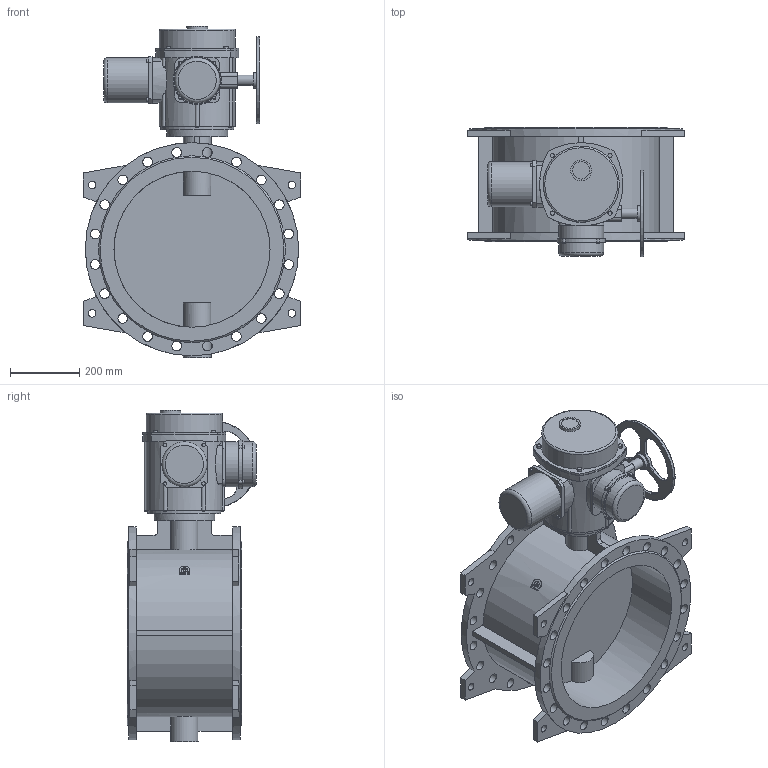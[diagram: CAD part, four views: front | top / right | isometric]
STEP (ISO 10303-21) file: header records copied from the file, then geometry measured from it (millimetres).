
FILE_DESCRIPTION(('STEP AP203'), '1');
FILE_NAME('青蜮铕 023F.Z DN450 PN16_菹_QT.Z300', '', ('UNSPECIFIED'), ('UNSPECIFIED'), 'ASCON STEP Converter 1.6', 'ASCON Math Kernel', '');
FILE_SCHEMA(('CONFIG_CONTROL_DESIGN'));
Length unit declared in the file: millimetre
Bounding box: 626 x 374 x 956 mm (x, y, z)
Volume: 38094246.6 mm3; surface area: 2634695.1 mm2
Topology: 1 solids, 1 shells, 401 faces, 1127 edges, 722 vertices
Faces by surface type: cylinder 194, plane 146, torus 43, cone 18
Full cylindrical faces by diameter (mm): 8 x10, 10 x4, 12 x4, 12.386 x1, 13.835 x4, 17.294 x4, 18 x4, 22 x8, 28 x40, 30 x1, 45 x1, 50 x1, 60 x1, 80 x1, 130 x3, 175 x1, 210 x1, 220 x1, 250 x1, 450 x2, 615 x2
Entity records: 19931 total; most frequent: CARTESIAN_POINT 6345, DIRECTION 2283, ORIENTED_EDGE 1998, EDGE_CURVE 999, AXIS2_PLACEMENT_3D 971, VERTEX_POINT 714, EDGE_LOOP 617, CIRCLE 569
